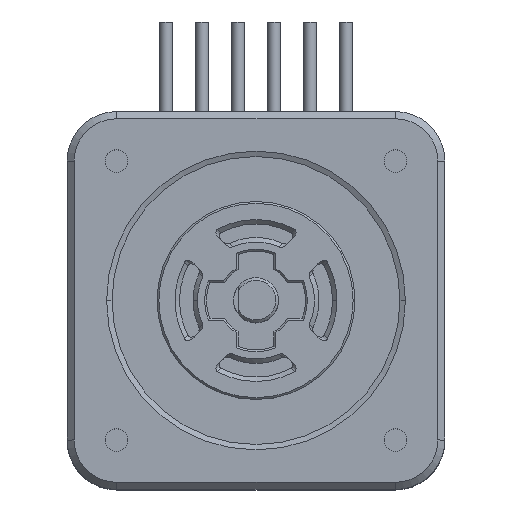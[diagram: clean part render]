
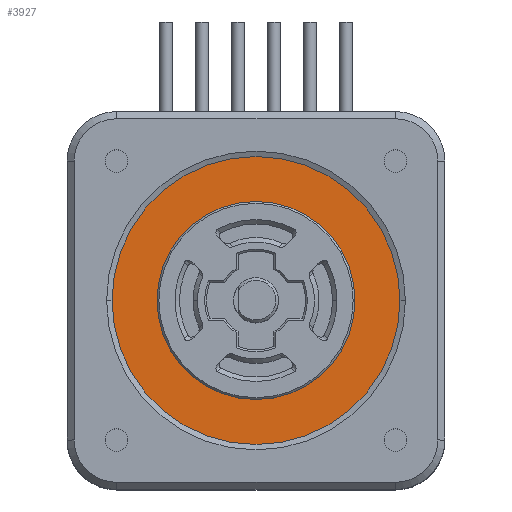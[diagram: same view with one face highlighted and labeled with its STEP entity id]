
A CAD part, top view. The second image highlights one B-rep face of the part: STEP entity #3927.
In plain terms, the highlighted planar face has unit normal (0, 0, 1).
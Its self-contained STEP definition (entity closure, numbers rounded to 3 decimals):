
#1546 = PLANE ( 'NONE',  #9816 ) ;
#1547 = CARTESIAN_POINT ( 'NONE',  ( 0., 0., -0.3 ) ) ;
#1548 = DIRECTION ( 'NONE',  ( 0., 0., 1. ) ) ;
#1549 = DIRECTION ( 'NONE',  ( 1., 0., 0. ) ) ;
#1834 = CARTESIAN_POINT ( 'NONE',  ( 0., 0., -0.3 ) ) ;
#1835 = DIRECTION ( 'NONE',  ( 0., 0., 1. ) ) ;
#1836 = DIRECTION ( 'NONE',  ( 1., 0., 0. ) ) ;
#1880 = CARTESIAN_POINT ( 'NONE',  ( 0., 0., -0.3 ) ) ;
#1881 = DIRECTION ( 'NONE',  ( 0., 0., 1. ) ) ;
#1882 = DIRECTION ( 'NONE',  ( 1., 0., 0. ) ) ;
#1903 = CARTESIAN_POINT ( 'NONE',  ( 0., 0., -0.3 ) ) ;
#1904 = DIRECTION ( 'NONE',  ( 0., 0., 1. ) ) ;
#1905 = DIRECTION ( 'NONE',  ( 1., 0., 0. ) ) ;
#2585 = FACE_BOUND ( 'NONE', #8147, .T. ) ;
#2586 = FACE_OUTER_BOUND ( 'NONE', #8146, .T. ) ;
#3927 = ADVANCED_FACE ( 'NONE', ( #2585, #2586 ), #1546, .T. ) ;
#3971 = EDGE_CURVE ( 'NONE', #10295, #10264, #9962, .T. ) ;
#3989 = EDGE_CURVE ( 'NONE', #10264, #10295, #9909, .T. ) ;
#3998 = EDGE_CURVE ( 'NONE', #10241, #10268, #9756, .T. ) ;
#4843 = EDGE_CURVE ( 'NONE', #10268, #10241, #8889, .T. ) ;
#5539 = CARTESIAN_POINT ( 'NONE',  ( 0., 0., -0.3 ) ) ;
#5540 = DIRECTION ( 'NONE',  ( 0., 0., 1. ) ) ;
#5541 = DIRECTION ( 'NONE',  ( 1., 0., 0. ) ) ;
#6901 = CARTESIAN_POINT ( 'NONE',  ( -16., 0., -0.3 ) ) ;
#6924 = CARTESIAN_POINT ( 'NONE',  ( 11., 0., -0.3 ) ) ;
#6928 = CARTESIAN_POINT ( 'NONE',  ( 16., 0., -0.3 ) ) ;
#6955 = CARTESIAN_POINT ( 'NONE',  ( -11., 0., -0.3 ) ) ;
#7165 = ORIENTED_EDGE ( 'NONE', *, *, #3989, .F. ) ;
#7166 = ORIENTED_EDGE ( 'NONE', *, *, #4843, .T. ) ;
#7168 = ORIENTED_EDGE ( 'NONE', *, *, #3998, .T. ) ;
#8146 = EDGE_LOOP ( 'NONE', ( #7166, #7168 ) ) ;
#8147 = EDGE_LOOP ( 'NONE', ( #9982, #7165 ) ) ;
#8889 = CIRCLE ( 'NONE', #8907, 16. ) ;
#8907 = AXIS2_PLACEMENT_3D ( 'NONE', #5539, #5540, #5541 ) ;
#9756 = CIRCLE ( 'NONE', #9804, 16. ) ;
#9804 = AXIS2_PLACEMENT_3D ( 'NONE', #1903, #1904, #1905 ) ;
#9816 = AXIS2_PLACEMENT_3D ( 'NONE', #1547, #1548, #1549 ) ;
#9832 = AXIS2_PLACEMENT_3D ( 'NONE', #1834, #1835, #1836 ) ;
#9909 = CIRCLE ( 'NONE', #9919, 11. ) ;
#9919 = AXIS2_PLACEMENT_3D ( 'NONE', #1880, #1881, #1882 ) ;
#9962 = CIRCLE ( 'NONE', #9832, 11. ) ;
#9982 = ORIENTED_EDGE ( 'NONE', *, *, #3971, .F. ) ;
#10241 = VERTEX_POINT ( 'NONE', #6901 ) ;
#10264 = VERTEX_POINT ( 'NONE', #6924 ) ;
#10268 = VERTEX_POINT ( 'NONE', #6928 ) ;
#10295 = VERTEX_POINT ( 'NONE', #6955 ) ;
